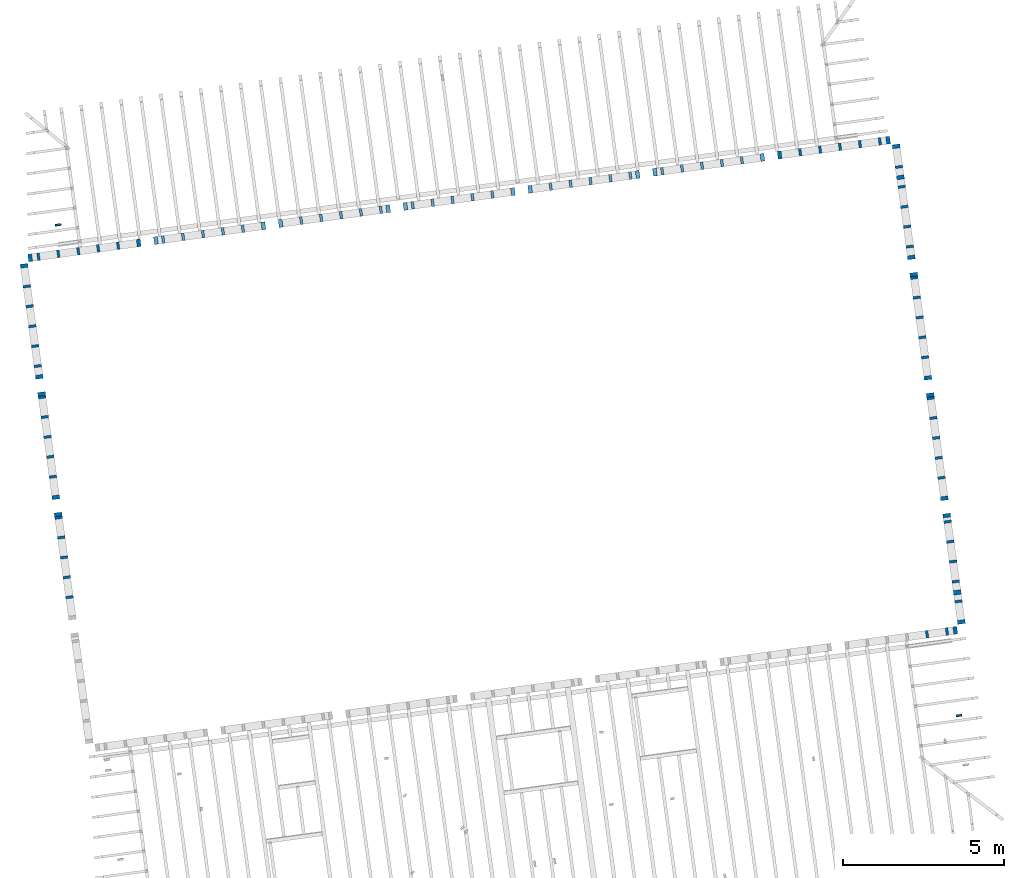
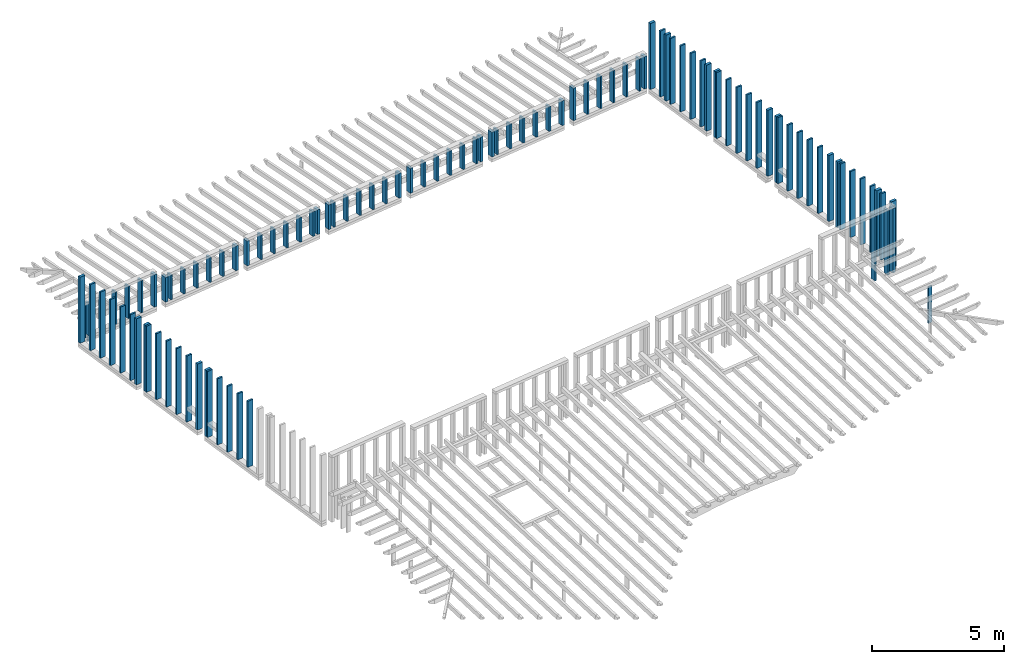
# One storey, part 2 of 16: 104 columns.
"""IFC2X3 building model written with IfcOpenShell, lengths in metres."""

from ifc_helpers import new_model, entity, si_unit, converted_unit, derived_unit, money_unit, direction, frame, origin_with_axes, origin_2d_with_axis, place, context, subcontext, project, spatial, rectangle, extrude, material, type_object, element, save


model = new_model("IFC2X3")

# Units and contexts
model_context = context("Model", 3, precision=1e-05, world=origin_with_axes(), true_north=direction((0.0, 1.0)))
body_context = subcontext(model_context, "Body", "Model", "MODEL_VIEW")
ifc_project = project(units=[si_unit("LENGTHUNIT", "METRE"), si_unit("AREAUNIT", "SQUARE_METRE"), si_unit("VOLUMEUNIT", "CUBIC_METRE"), converted_unit("PLANEANGLEUNIT", "DEGREE", entity("IfcPlaneAngleMeasure", 0.0174532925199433), si_unit("PLANEANGLEUNIT", "RADIAN"), dimensions=[0, 0, 0, 0, 0, 0, 0]), money_unit("EUR"), converted_unit("TIMEUNIT", "Year", entity("IfcTimeMeasure", 31557600.0), si_unit("TIMEUNIT", "SECOND"), dimensions=[0, 0, 1, 0, 0, 0, 0]), si_unit("MASSUNIT", "GRAM", prefix="KILO"), si_unit("THERMODYNAMICTEMPERATUREUNIT", "DEGREE_CELSIUS"), si_unit("LUMINOUSINTENSITYUNIT", "LUMEN"), si_unit("ENERGYUNIT", "JOULE", prefix="MEGA"), derived_unit("THERMALCONDUCTANCEUNIT", [(si_unit("POWERUNIT", "WATT"), 1), (si_unit("LENGTHUNIT", "METRE"), -1), (si_unit("THERMODYNAMICTEMPERATUREUNIT", "KELVIN"), -1)]), derived_unit("SPECIFICHEATCAPACITYUNIT", [(si_unit("ENERGYUNIT", "JOULE"), 1), (si_unit("MASSUNIT", "GRAM", prefix="KILO"), -1), (si_unit("THERMODYNAMICTEMPERATUREUNIT", "KELVIN"), -1)]), derived_unit("MASSDENSITYUNIT", [(si_unit("MASSUNIT", "GRAM", prefix="KILO"), 1), (si_unit("VOLUMEUNIT", "CUBIC_METRE"), -1)])], contexts=[model_context])

# Site, building, storey
site_placement = place(None, origin_with_axes())
site = spatial("IfcSite", under=ifc_project, at=site_placement, Name="Gelände", CompositionType="ELEMENT")
building_placement = place(site_placement, origin_with_axes())
building = spatial("IfcBuilding", under=site, at=building_placement, Name="Gebäude", CompositionType="ELEMENT")
storey_placement = place(building_placement, frame((0.0, 0.0, 3.0), z_axis=(0.0, 0.0, 1.0), x_axis=(1.0, 0.0, 0.0)))
storey = spatial("IfcBuildingStorey", under=building, at=storey_placement, Name="ZG", CompositionType="ELEMENT", Elevation=3.0)

# Columns
ifc_material = material(Name="Bauholz")
column_type_1 = type_object("IfcColumnType", Name="Bauholz 80 x 240", PredefinedType="NOTDEFINED")
for number, where, z_axis, x_axis in (
    (1, (113.330141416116, -144.586933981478, 0.2719999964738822), (0.0, 0.0, 1.0), (0.1357111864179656, -0.9907484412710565, 0.0)),
    (2, (113.2453219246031, -143.9677162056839, 0.2719999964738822), (0.0, 0.0, 1.0), (0.1357111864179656, -0.9907484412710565, 0.0)),
    (3, (113.4149609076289, -145.2061517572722, 0.2719999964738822), (0.0, 0.0, 1.0), (0.1357111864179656, -0.9907484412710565, 0.0)),
    (4, (113.058040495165, -142.6004834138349, 0.2719999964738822), (0.0, 0.0, 1.0), (0.1357111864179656, -0.9907484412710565, 0.0)),
    (5, (112.9732210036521, -141.9812656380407, 0.2719999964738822), (0.0, 0.0, 1.0), (0.1357111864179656, -0.9907484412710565, 0.0)),
    (6, (112.8035820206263, -140.7428300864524, 0.2719999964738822), (0.0, 0.0, 1.0), (0.1357111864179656, -0.9907484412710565, 0.0)),
    (7, (112.8884015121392, -141.3620478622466, 0.2719999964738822), (0.0, 0.0, 1.0), (0.1357111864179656, -0.9907484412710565, 0.0)),
    (8, (112.7194410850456, -140.1285660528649, 0.2719999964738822), (0.0, 0.0, 1.0), (0.1357111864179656, -0.9907484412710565, 0.0)),
):
    element("IfcColumn", number, at=place(storey_placement, frame(where, z_axis=z_axis, x_axis=x_axis)), inside=storey, type_object=column_type_1, material=ifc_material, Name="Stütze-018", context=body_context, shape_type="SweptSolid", body=[
        extrude(rectangle(XDim=0.08, YDim=0.24, at=origin_2d_with_axis()), origin_with_axes(), (0.0, 0.0, 1.0), 3.06),
    ])
column_1_placement = place(storey_placement, frame((85.09561245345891, -140.097137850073, 0.2719999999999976), z_axis=(0.0, 0.0, 1.0), x_axis=(0.1357111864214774, -0.9907484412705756, 0.0)))
element("IfcColumn", 9, at=column_1_placement, inside=storey, type_object=column_type_1, material=ifc_material, Name="Stütze-018", context=body_context, shape_type="SweptSolid", body=[
    extrude(rectangle(XDim=0.08, YDim=0.24, at=origin_2d_with_axis()), origin_with_axes(), (0.0, 0.0, 1.0), 3.059999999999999),
])
for number, where, z_axis, x_axis in (
    (10, (113.4997803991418, -145.8253695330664, 0.2719999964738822), (0.0, 0.0, 1.0), (0.1357111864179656, -0.9907484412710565, 0.0)),
    (11, (113.5845998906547, -146.4445873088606, 0.2719999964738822), (0.0, 0.0, 1.0), (0.1357111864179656, -0.9907484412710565, 0.0)),
):
    element("IfcColumn", number, at=place(storey_placement, frame(where, z_axis=z_axis, x_axis=x_axis)), inside=storey, type_object=column_type_1, material=ifc_material, Name="Stütze-018", context=body_context, shape_type="SweptSolid", body=[
        extrude(rectangle(XDim=0.08, YDim=0.24, at=origin_2d_with_axis()), origin_with_axes(), (0.0, 0.0, 1.0), 3.06),
    ])
for number, where, z_axis, x_axis in (
    (12, (112.6079077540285, -147.4660858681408, 0.2720003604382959), (0.0, 0.0, 1.0), (0.9907484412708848, 0.1357111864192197, 0.0)),
    (13, (113.2271255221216, -147.3812663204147, 0.2720003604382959), (0.0, 0.0, 1.0), (0.9907484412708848, 0.1357111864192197, 0.0)),
):
    element("IfcColumn", number, at=place(storey_placement, frame(where, z_axis=z_axis, x_axis=x_axis)), inside=storey, type_object=column_type_1, material=ifc_material, Name="Stütze-018", context=body_context, shape_type="SweptSolid", body=[
        extrude(rectangle(XDim=0.08, YDim=0.24, at=origin_2d_with_axis()), origin_with_axes(), (0.0, 0.0, 1.0), 2.98193316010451),
    ])
for number, where, z_axis, x_axis in (
    (14, (109.2821662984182, -132.3975184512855, 0.2719999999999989), (0.0, 0.0, 1.0), (0.9907484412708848, 0.1357111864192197, 0.0)),
    (15, (108.6629485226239, -132.4823379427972, 0.2719999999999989), (0.0, 0.0, 1.0), (0.9907484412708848, 0.1357111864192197, 0.0)),
    (16, (109.901384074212, -132.3126989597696, 0.2719999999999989), (0.0, 0.0, 1.0), (0.9907484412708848, 0.1357111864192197, 0.0)),
    (17, (111.1398196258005, -132.1430599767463, 0.2719999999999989), (0.0, 0.0, 1.0), (0.9907484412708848, 0.1357111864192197, 0.0)),
    (18, (110.5206018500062, -132.2278794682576, 0.2719999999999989), (0.0, 0.0, 1.0), (0.9907484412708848, 0.1357111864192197, 0.0)),
    (19, (86.84029732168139, -135.4715708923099, 0.2719999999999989), (0.0, 0.0, 1.0), (0.9907484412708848, 0.1357111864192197, 0.0)),
    (20, (85.60186177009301, -135.6412098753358, 0.2719999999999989), (0.0, 0.0, 1.0), (0.9907484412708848, 0.1357111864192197, 0.0)),
    (21, (84.98264399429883, -135.7260293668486, 0.2719999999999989), (0.0, 0.0, 1.0), (0.9907484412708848, 0.1357111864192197, 0.0)),
    (22, (87.45951509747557, -135.386751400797, 0.2719999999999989), (0.0, 0.0, 1.0), (0.9907484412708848, 0.1357111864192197, 0.0)),
    (23, (86.2210795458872, -135.5563903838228, 0.2719999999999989), (0.0, 0.0, 1.0), (0.9907484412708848, 0.1357111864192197, 0.0)),
):
    element("IfcColumn", number, at=place(storey_placement, frame(where, z_axis=z_axis, x_axis=x_axis)), inside=storey, type_object=column_type_1, material=ifc_material, Name="Stütze-018", context=body_context, shape_type="SweptSolid", body=[
        extrude(rectangle(XDim=0.08, YDim=0.24, at=origin_2d_with_axis()), origin_with_axes(), (0.0, 0.0, 1.0), 1.499550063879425),
    ])
for number, where, z_axis, x_axis in (
    (24, (105.6114415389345, -132.9003286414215, 0.2719999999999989), (0.0, 0.0, 1.0), (0.9907484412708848, 0.1357111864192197, 0.0)),
    (25, (106.2306593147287, -132.8155091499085, 0.2719999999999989), (0.0, 0.0, 1.0), (0.9907484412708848, 0.1357111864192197, 0.0)),
    (26, (104.9922237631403, -132.9851481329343, 0.2719999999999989), (0.0, 0.0, 1.0), (0.9907484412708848, 0.1357111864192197, 0.0)),
    (27, (104.3730059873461, -133.0699676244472, 0.2719999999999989), (0.0, 0.0, 1.0), (0.9907484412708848, 0.1357111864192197, 0.0)),
):
    element("IfcColumn", number, at=place(storey_placement, frame(where, z_axis=z_axis, x_axis=x_axis)), inside=storey, type_object=column_type_1, material=ifc_material, Name="Stütze-018", context=body_context, shape_type="SweptSolid", body=[
        extrude(rectangle(XDim=0.08, YDim=0.24, at=origin_2d_with_axis()), origin_with_axes(), (0.0, 0.0, 1.0), 1.144011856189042),
    ])
for number, where, z_axis, x_axis in (
    (28, (100.9068039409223, -133.5447626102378, 0.2719999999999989), (0.0, 0.0, 1.0), (0.9907484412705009, 0.1357111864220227, 0.0)),
    (29, (101.5260217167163, -133.4599431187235, 0.2719999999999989), (0.0, 0.0, 1.0), (0.9907484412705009, 0.1357111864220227, 0.0)),
    (30, (102.1452394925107, -133.375123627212, 0.2719999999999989), (0.0, 0.0, 1.0), (0.9907484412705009, 0.1357111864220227, 0.0)),
    (31, (102.7644572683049, -133.2903041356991, 0.2719999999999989), (0.0, 0.0, 1.0), (0.9907484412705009, 0.1357111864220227, 0.0)),
    (32, (103.383675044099, -133.2054846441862, 0.2719999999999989), (0.0, 0.0, 1.0), (0.9907484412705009, 0.1357111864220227, 0.0)),
):
    element("IfcColumn", number, at=place(storey_placement, frame(where, z_axis=z_axis, x_axis=x_axis)), inside=storey, type_object=column_type_1, material=ifc_material, Name="Stütze-018", context=body_context, shape_type="SweptSolid", body=[
        extrude(rectangle(XDim=0.08, YDim=0.24, at=origin_2d_with_axis()), frame((0.0, 0.0, 0.0), z_axis=(0.0, 0.0, -1.0), x_axis=(-1.0, 0.0, 0.0)), (0.0, 0.0, -1.0), 1.144011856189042),
    ])
for number, where, z_axis, x_axis in (
    (33, (99.09373215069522, -133.7931143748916, 0.2719999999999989), (0.0, 0.0, 1.0), (0.9907484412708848, 0.1357111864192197, 0.0)),
    (34, (106.8498770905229, -132.7306896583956, 0.2719999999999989), (0.0, 0.0, 1.0), (0.9907484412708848, 0.1357111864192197, 0.0)),
    (35, (98.47451437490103, -133.8779338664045, 0.2719999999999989), (0.0, 0.0, 1.0), (0.9907484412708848, 0.1357111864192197, 0.0)),
    (36, (97.85529659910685, -133.9627533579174, 0.2719999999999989), (0.0, 0.0, 1.0), (0.9907484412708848, 0.1357111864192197, 0.0)),
):
    element("IfcColumn", number, at=place(storey_placement, frame(where, z_axis=z_axis, x_axis=x_axis)), inside=storey, type_object=column_type_1, material=ifc_material, Name="Stütze-018", context=body_context, shape_type="SweptSolid", body=[
        extrude(rectangle(XDim=0.08, YDim=0.24, at=origin_2d_with_axis()), origin_with_axes(), (0.0, 0.0, 1.0), 1.144011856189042),
    ])
column_2_placement = place(storey_placement, frame((93.15065900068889, -134.6071873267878, 0.2719999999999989), z_axis=(0.0, 0.0, 1.0), x_axis=(0.9907484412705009, 0.1357111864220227, 0.0)))
element("IfcColumn", 37, at=column_2_placement, inside=storey, type_object=column_type_1, material=ifc_material, Name="Stütze-018", context=body_context, shape_type="SweptSolid", body=[
    extrude(rectangle(XDim=0.08, YDim=0.24, at=origin_2d_with_axis()), frame((0.0, 0.0, 0.0), z_axis=(0.0, 0.0, -1.0), x_axis=(-1.0, 0.0, 0.0)), (0.0, 0.0, -1.0), 1.144011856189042),
])
column_3_placement = place(storey_placement, frame((97.23607882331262, -134.0475728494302, 0.2719999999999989), z_axis=(0.0, 0.0, 1.0), x_axis=(0.9907484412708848, 0.1357111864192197, 0.0)))
element("IfcColumn", 38, at=column_3_placement, inside=storey, type_object=column_type_1, material=ifc_material, Name="Stütze-018", context=body_context, shape_type="SweptSolid", body=[
    extrude(rectangle(XDim=0.08, YDim=0.24, at=origin_2d_with_axis()), origin_with_axes(), (0.0, 0.0, 1.0), 1.144011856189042),
])
for number, where, z_axis, x_axis in (
    (39, (93.76987677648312, -134.522367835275, 0.2719999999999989), (0.0, 0.0, 1.0), (0.9907484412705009, 0.1357111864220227, 0.0)),
    (40, (94.38909455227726, -134.437548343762, 0.2719999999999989), (0.0, 0.0, 1.0), (0.9907484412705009, 0.1357111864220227, 0.0)),
    (41, (95.00831232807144, -134.3527288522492, 0.2719999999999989), (0.0, 0.0, 1.0), (0.9907484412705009, 0.1357111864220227, 0.0)),
    (42, (95.62753010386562, -134.2679093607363, 0.2719999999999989), (0.0, 0.0, 1.0), (0.9907484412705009, 0.1357111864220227, 0.0)),
):
    element("IfcColumn", number, at=place(storey_placement, frame(where, z_axis=z_axis, x_axis=x_axis)), inside=storey, type_object=column_type_1, material=ifc_material, Name="Stütze-018", context=body_context, shape_type="SweptSolid", body=[
        extrude(rectangle(XDim=0.08, YDim=0.24, at=origin_2d_with_axis()), frame((0.0, 0.0, 0.0), z_axis=(0.0, 0.0, -1.0), x_axis=(-1.0, 0.0, 0.0)), (0.0, 0.0, -1.0), 1.144011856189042),
    ])
for number, where, z_axis, x_axis in (
    (43, (91.33758721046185, -134.8555390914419, 0.2719999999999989), (0.0, 0.0, 1.0), (0.9907484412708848, 0.1357111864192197, 0.0)),
    (44, (90.71836943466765, -134.9403585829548, 0.2719999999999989), (0.0, 0.0, 1.0), (0.9907484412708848, 0.1357111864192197, 0.0)),
    (45, (96.61686104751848, -134.1323923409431, 0.2719999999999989), (0.0, 0.0, 1.0), (0.9907484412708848, 0.1357111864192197, 0.0)),
    (46, (90.09915165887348, -135.0251780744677, 0.2719999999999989), (0.0, 0.0, 1.0), (0.9907484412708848, 0.1357111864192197, 0.0)),
    (47, (89.47993388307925, -135.1099975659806, 0.2719999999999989), (0.0, 0.0, 1.0), (0.9907484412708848, 0.1357111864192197, 0.0)),
):
    element("IfcColumn", number, at=place(storey_placement, frame(where, z_axis=z_axis, x_axis=x_axis)), inside=storey, type_object=column_type_1, material=ifc_material, Name="Stütze-018", context=body_context, shape_type="SweptSolid", body=[
        extrude(rectangle(XDim=0.08, YDim=0.24, at=origin_2d_with_axis()), origin_with_axes(), (0.0, 0.0, 1.0), 1.144011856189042),
    ])
for number, where, z_axis, x_axis in (
    (48, (84.62347323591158, -136.6503240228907, 0.2719999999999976), (0.0, 0.0, 1.0), (-0.1357111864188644, 0.9907484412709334, 0.0)),
    (49, (85.17975338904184, -140.7114018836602, 0.2719999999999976), (0.0, 0.0, 1.0), (0.1357111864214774, -0.9907484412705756, 0.0)),
    (50, (85.26457288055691, -141.3306196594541, 0.2719999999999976), (0.0, 0.0, 1.0), (0.1357111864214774, -0.9907484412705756, 0.0)),
    (51, (85.34939237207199, -141.949837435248, 0.2719999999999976), (0.0, 0.0, 1.0), (0.1357111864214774, -0.9907484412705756, 0.0)),
):
    element("IfcColumn", number, at=place(storey_placement, frame(where, z_axis=z_axis, x_axis=x_axis)), inside=storey, type_object=column_type_1, material=ifc_material, Name="Stütze-018", context=body_context, shape_type="SweptSolid", body=[
        extrude(rectangle(XDim=0.08, YDim=0.24, at=origin_2d_with_axis()), origin_with_axes(), (0.0, 0.0, 1.0), 3.059999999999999),
    ])
column_4_placement = place(storey_placement, frame((88.86071610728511, -135.1948170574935, 0.2719999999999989), z_axis=(0.0, 0.0, 1.0), x_axis=(0.9907484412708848, 0.1357111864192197, 0.0)))
element("IfcColumn", 52, at=column_4_placement, inside=storey, type_object=column_type_1, material=ifc_material, Name="Stütze-018", context=body_context, shape_type="SweptSolid", body=[
    extrude(rectangle(XDim=0.08, YDim=0.24, at=origin_2d_with_axis()), origin_with_axes(), (0.0, 0.0, 1.0), 1.144011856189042),
])
for number, where, z_axis, x_axis in (
    (53, (84.70829272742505, -137.2695417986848, 0.2719999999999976), (0.0, 0.0, 1.0), (-0.1357111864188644, 0.9907484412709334, 0.0)),
    (54, (85.43421186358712, -142.5690552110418, 0.2719999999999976), (0.0, 0.0, 1.0), (0.1357111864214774, -0.9907484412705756, 0.0)),
    (55, (84.96275120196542, -139.1271951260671, 0.2719999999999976), (0.0, 0.0, 1.0), (-0.1357111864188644, 0.9907484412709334, 0.0)),
    (56, (84.87793171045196, -138.507977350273, 0.2719999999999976), (0.0, 0.0, 1.0), (-0.1357111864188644, 0.9907484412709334, 0.0)),
    (57, (84.7931122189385, -137.8887595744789, 0.2719999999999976), (0.0, 0.0, 1.0), (-0.1357111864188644, 0.9907484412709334, 0.0)),
    (58, (85.60860073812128, -143.8421669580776, 0.2719999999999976), (0.0, 0.0, 1.0), (0.1357111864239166, -0.9907484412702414, 0.0)),
    (59, (85.69274167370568, -144.4564309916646, 0.2719999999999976), (0.0, 0.0, 1.0), (0.1357111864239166, -0.9907484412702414, 0.0)),
    (60, (85.77756116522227, -145.0756487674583, 0.2719999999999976), (0.0, 0.0, 1.0), (0.1357111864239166, -0.9907484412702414, 0.0)),
    (61, (85.8623806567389, -145.6948665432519, 0.2719999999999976), (0.0, 0.0, 1.0), (0.1357111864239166, -0.9907484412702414, 0.0)),
    (62, (85.94720014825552, -146.3140843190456, 0.2719999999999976), (0.0, 0.0, 1.0), (0.1357111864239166, -0.9907484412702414, 0.0)),
):
    element("IfcColumn", number, at=place(storey_placement, frame(where, z_axis=z_axis, x_axis=x_axis)), inside=storey, type_object=column_type_1, material=ifc_material, Name="Stütze-018", context=body_context, shape_type="SweptSolid", body=[
        extrude(rectangle(XDim=0.08, YDim=0.24, at=origin_2d_with_axis()), origin_with_axes(), (0.0, 0.0, 1.0), 3.059999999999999),
    ])
for number, where, z_axis, x_axis in (
    (63, (112.2064528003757, -136.3835369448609, 0.2719999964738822), (0.0, 0.0, 1.0), (0.1357111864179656, -0.9907484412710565, 0.0)),
    (64, (112.2905937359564, -136.9978009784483, 0.2719999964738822), (0.0, 0.0, 1.0), (0.1357111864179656, -0.9907484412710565, 0.0)),
    (65, (112.5450522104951, -138.8554543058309, 0.2719999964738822), (0.0, 0.0, 1.0), (0.1357111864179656, -0.9907484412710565, 0.0)),
    (66, (112.3754132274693, -137.6170187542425, 0.2719999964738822), (0.0, 0.0, 1.0), (0.1357111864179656, -0.9907484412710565, 0.0)),
    (67, (112.4602327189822, -138.2362365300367, 0.2719999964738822), (0.0, 0.0, 1.0), (0.1357111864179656, -0.9907484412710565, 0.0)),
    (68, (112.0735915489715, -135.4135942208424, 0.2719999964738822), (0.0, 0.0, 1.0), (-0.1357111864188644, 0.9907484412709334, 0.0)),
    (69, (111.9039525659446, -134.1751586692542, 0.2719999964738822), (0.0, 0.0, 1.0), (-0.1357111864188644, 0.9907484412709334, 0.0)),
    (70, (111.8191330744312, -133.5559408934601, 0.2719999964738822), (0.0, 0.0, 1.0), (-0.1357111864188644, 0.9907484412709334, 0.0)),
    (71, (111.7343135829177, -132.936723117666, 0.2719999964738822), (0.0, 0.0, 1.0), (-0.1357111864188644, 0.9907484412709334, 0.0)),
    (72, (111.9887720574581, -134.7943764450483, 0.2719999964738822), (0.0, 0.0, 1.0), (-0.1357111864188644, 0.9907484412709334, 0.0)),
):
    element("IfcColumn", number, at=place(storey_placement, frame(where, z_axis=z_axis, x_axis=x_axis)), inside=storey, type_object=column_type_1, material=ifc_material, Name="Stütze-018", context=body_context, shape_type="SweptSolid", body=[
        extrude(rectangle(XDim=0.08, YDim=0.24, at=origin_2d_with_axis()), origin_with_axes(), (0.0, 0.0, 1.0), 3.06),
    ])
column_type_2 = type_object("IfcColumnType", Name="Bauholz 60 x 180", PredefinedType="NOTDEFINED")
column_5_placement = place(storey_placement, frame((113.6017613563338, -149.9925827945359, -0.5399999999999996), z_axis=(0.0, 0.0, 1.0), x_axis=(-0.1357111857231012, 0.9907484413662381, 0.0)))
element("IfcColumn", 73, at=column_5_placement, inside=storey, type_object=column_type_2, material=ifc_material, Name="Stütze-018", context=body_context, shape_type="SweptSolid", body=[
    extrude(rectangle(XDim=0.06, YDim=0.18, at=origin_2d_with_axis()), frame((0.0, 0.0, 0.0), z_axis=(0.0, 0.0, -1.0), x_axis=(-1.0, 0.0, 0.0)), (0.0, 0.0, -1.0), 1.690631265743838),
])
column_6_placement = place(storey_placement, frame((85.5953556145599, -134.7387436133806, -0.8050000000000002), z_axis=(0.0, 0.0, 1.0), x_axis=(0.1357111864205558, -0.9907484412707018, 0.0)))
element("IfcColumn", 74, at=column_6_placement, inside=storey, type_object=column_type_2, material=ifc_material, Name="Stütze-018", context=body_context, shape_type="SweptSolid", body=[
    extrude(rectangle(XDim=0.06, YDim=0.18, at=origin_2d_with_axis()), origin_with_axes(), (0.0, 0.0, 1.0), 1.472846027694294),
])
column_type_3 = type_object("IfcColumnType", Name="Bauholz 120 x 240", PredefinedType="NOTDEFINED")
for number, where, z_axis, x_axis in (
    (75, (111.646779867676, -132.2976903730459, 0.2719999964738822), (0.0, 0.0, 1.0), (-0.1357111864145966, 0.9907484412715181, 0.0)),
    (76, (112.7058699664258, -140.0294912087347, 0.2719999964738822), (0.0, 0.0, 1.0), (0.1357111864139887, -0.9907484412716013, 0.0)),
    (77, (113.1455742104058, -143.2395161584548, 0.2719999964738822), (0.0, 0.0, 1.0), (0.1357111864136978, -0.9907484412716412, 0.0)),
):
    element("IfcColumn", number, at=place(storey_placement, frame(where, z_axis=z_axis, x_axis=x_axis)), inside=storey, type_object=column_type_3, material=ifc_material, Name="Stütze-018", context=body_context, shape_type="SweptSolid", body=[
        extrude(rectangle(XDim=0.12, YDim=0.24, at=origin_2d_with_axis()), origin_with_axes(), (0.0, 0.0, 1.0), 3.06),
    ])
column_7_placement = place(storey_placement, frame((113.4840111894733, -147.3460785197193, 0.2720003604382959), z_axis=(0.0, 0.0, 1.0), x_axis=(0.9907484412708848, 0.1357111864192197, 0.0)))
element("IfcColumn", 78, at=column_7_placement, inside=storey, type_object=column_type_3, material=ifc_material, Name="Stütze-018", context=body_context, shape_type="SweptSolid", body=[
    extrude(rectangle(XDim=0.120001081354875, YDim=0.24, at=origin_2d_with_axis()), origin_with_axes(), (0.0, 0.0, 1.0), 2.98193316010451),
])
column_8_placement = place(storey_placement, frame((108.0239156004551, -132.569871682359, 0.2719999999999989), z_axis=(0.0, 0.0, 1.0), x_axis=(0.9907484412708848, 0.1357111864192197, 0.0)))
element("IfcColumn", 79, at=column_8_placement, inside=storey, type_object=column_type_3, material=ifc_material, Name="Stütze-018", context=body_context, shape_type="SweptSolid", body=[
    extrude(rectangle(XDim=0.1200010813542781, YDim=0.24, at=origin_2d_with_axis()), origin_with_axes(), (0.0, 0.0, 1.0), 1.499550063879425),
])
column_9_placement = place(storey_placement, frame((111.3967052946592, -132.1078721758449, 0.2719999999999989), z_axis=(0.0, 0.0, 1.0), x_axis=(0.9907484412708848, 0.1357111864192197, 0.0)))
element("IfcColumn", 80, at=column_9_placement, inside=storey, type_object=column_type_3, material=ifc_material, Name="Stütze-018", context=body_context, shape_type="SweptSolid", body=[
    extrude(rectangle(XDim=0.1200010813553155, YDim=0.24, at=origin_2d_with_axis()), origin_with_axes(), (0.0, 0.0, 1.0), 1.499550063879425),
])
column_10_placement = place(storey_placement, frame((88.09854819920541, -135.2992176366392, 0.2719999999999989), z_axis=(0.0, 0.0, 1.0), x_axis=(0.9907484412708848, 0.1357111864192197, 0.0)))
element("IfcColumn", 81, at=column_10_placement, inside=storey, type_object=column_type_3, material=ifc_material, Name="Stütze-018", context=body_context, shape_type="SweptSolid", body=[
    extrude(rectangle(XDim=0.1200007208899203, YDim=0.24, at=origin_2d_with_axis()), origin_with_axes(), (0.0, 0.0, 1.0), 1.499550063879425),
])
column_11_placement = place(storey_placement, frame((84.72575832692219, -135.7612171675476, 0.2719999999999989), z_axis=(0.0, 0.0, 1.0), x_axis=(0.9907484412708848, 0.1357111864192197, 0.0)))
element("IfcColumn", 82, at=column_11_placement, inside=storey, type_object=column_type_3, material=ifc_material, Name="Stütze-018", context=body_context, shape_type="SweptSolid", body=[
    extrude(rectangle(XDim=0.1200010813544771, YDim=0.24, at=origin_2d_with_axis()), origin_with_axes(), (0.0, 0.0, 1.0), 1.499550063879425),
])
column_12_placement = place(storey_placement, frame((107.4889103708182, -132.6431558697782, 0.2719999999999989), z_axis=(0.0, 0.0, 1.0), x_axis=(0.9907484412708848, 0.1357111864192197, 0.0)))
element("IfcColumn", 83, at=column_12_placement, inside=storey, type_object=column_type_3, material=ifc_material, Name="Stütze-018", context=body_context, shape_type="SweptSolid", body=[
    extrude(rectangle(XDim=0.1200010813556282, YDim=0.24, at=origin_2d_with_axis()), origin_with_axes(), (0.0, 0.0, 1.0), 1.144011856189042),
])
column_13_placement = place(storey_placement, frame((104.1458431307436, -133.1010840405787, 0.2719999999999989), z_axis=(0.0, 0.0, 1.0), x_axis=(0.9907484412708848, 0.1357111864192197, 0.0)))
element("IfcColumn", 84, at=column_13_placement, inside=storey, type_object=column_type_3, material=ifc_material, Name="Stütze-018", context=body_context, shape_type="SweptSolid", body=[
    extrude(rectangle(XDim=0.1200010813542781, YDim=0.24, at=origin_2d_with_axis()), origin_with_axes(), (0.0, 0.0, 1.0), 1.144011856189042),
])
column_14_placement = place(storey_placement, frame((100.2677706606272, -133.6322963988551, 0.2719999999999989), z_axis=(0.0, 0.0, 1.0), x_axis=(0.9907484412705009, 0.1357111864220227, 0.0)))
element("IfcColumn", 85, at=column_14_placement, inside=storey, type_object=column_type_3, material=ifc_material, Name="Stütze-018", context=body_context, shape_type="SweptSolid", body=[
    extrude(rectangle(XDim=0.1200010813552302, YDim=0.24, at=origin_2d_with_axis()), frame((0.0, 0.0, 0.0), z_axis=(0.0, 0.0, -1.0), x_axis=(-1.0, 0.0, 0.0)), (0.0, 0.0, -1.0), 1.144011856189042),
])
column_15_placement = place(storey_placement, frame((99.73276543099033, -133.7055805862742, 0.2719999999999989), z_axis=(0.0, 0.0, 1.0), x_axis=(0.9907484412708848, 0.1357111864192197, 0.0)))
element("IfcColumn", 86, at=column_15_placement, inside=storey, type_object=column_type_3, material=ifc_material, Name="Stütze-018", context=body_context, shape_type="SweptSolid", body=[
    extrude(rectangle(XDim=0.1200010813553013, YDim=0.24, at=origin_2d_with_axis()), origin_with_axes(), (0.0, 0.0, 1.0), 1.144011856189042),
])
column_16_placement = place(storey_placement, frame((96.38969819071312, -134.1635087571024, 0.2719999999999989), z_axis=(0.0, 0.0, 1.0), x_axis=(0.9907484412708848, 0.1357111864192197, 0.0)))
element("IfcColumn", 87, at=column_16_placement, inside=storey, type_object=column_type_3, material=ifc_material, Name="Stütze-018", context=body_context, shape_type="SweptSolid", body=[
    extrude(rectangle(XDim=0.120001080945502, YDim=0.24, at=origin_2d_with_axis()), origin_with_axes(), (0.0, 0.0, 1.0), 1.144011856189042),
])
column_17_placement = place(storey_placement, frame((95.85469296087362, -134.2367929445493, 0.2719999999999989), z_axis=(0.0, 0.0, 1.0), x_axis=(0.9907484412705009, 0.1357111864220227, 0.0)))
element("IfcColumn", 88, at=column_17_placement, inside=storey, type_object=column_type_3, material=ifc_material, Name="Stütze-018", context=body_context, shape_type="SweptSolid", body=[
    extrude(rectangle(XDim=0.1200010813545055, YDim=0.24, at=origin_2d_with_axis()), frame((0.0, 0.0, 0.0), z_axis=(0.0, 0.0, -1.0), x_axis=(-1.0, 0.0, 0.0)), (0.0, 0.0, -1.0), 1.144011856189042),
])
column_18_placement = place(storey_placement, frame((91.97662049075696, -134.7680053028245, 0.2719999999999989), z_axis=(0.0, 0.0, 1.0), x_axis=(0.9907484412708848, 0.1357111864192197, 0.0)))
element("IfcColumn", 89, at=column_18_placement, inside=storey, type_object=column_type_3, material=ifc_material, Name="Stütze-018", context=body_context, shape_type="SweptSolid", body=[
    extrude(rectangle(XDim=0.1200010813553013, YDim=0.24, at=origin_2d_with_axis()), origin_with_axes(), (0.0, 0.0, 1.0), 1.144011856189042),
])
column_19_placement = place(storey_placement, frame((92.51162572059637, -134.6947211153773, 0.2719999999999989), z_axis=(0.0, 0.0, 1.0), x_axis=(0.9907484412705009, 0.1357111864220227, 0.0)))
element("IfcColumn", 90, at=column_19_placement, inside=storey, type_object=column_type_3, material=ifc_material, Name="Stütze-018", context=body_context, shape_type="SweptSolid", body=[
    extrude(rectangle(XDim=0.1200010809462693, YDim=0.24, at=origin_2d_with_axis()), frame((0.0, 0.0, 0.0), z_axis=(0.0, 0.0, -1.0), x_axis=(-1.0, 0.0, 0.0)), (0.0, 0.0, -1.0), 1.144011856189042),
])
column_20_placement = place(storey_placement, frame((88.63355325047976, -135.2259334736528, 0.2719999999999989), z_axis=(0.0, 0.0, 1.0), x_axis=(0.9907484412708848, 0.1357111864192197, 0.0)))
element("IfcColumn", 91, at=column_20_placement, inside=storey, type_object=column_type_3, material=ifc_material, Name="Stütze-018", context=body_context, shape_type="SweptSolid", body=[
    extrude(rectangle(XDim=0.1200010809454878, YDim=0.24, at=origin_2d_with_axis()), origin_with_axes(), (0.0, 0.0, 1.0), 1.144011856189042),
])
for number, where, z_axis, x_axis in (
    (92, (84.53593952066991, -136.0112912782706, 0.2719999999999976), (0.0, 0.0, 1.0), (-0.1357111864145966, 0.9907484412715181, 0.0)),
    (93, (85.00875729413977, -139.4630588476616, 0.2719999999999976), (0.0, 0.0, 1.0), (-0.1357111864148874, 0.9907484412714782, 0.0)),
    (94, (85.52174557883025, -143.2080879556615, 0.2719999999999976), (0.0, 0.0, 1.0), (0.1357111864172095, -0.9907484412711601, 0.0)),
    (95, (85.08204133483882, -139.9980630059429, 0.2719999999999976), (0.0, 0.0, 1.0), (0.1357111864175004, -0.9907484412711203, 0.0)),
):
    element("IfcColumn", number, at=place(storey_placement, frame(where, z_axis=z_axis, x_axis=x_axis)), inside=storey, type_object=column_type_3, material=ifc_material, Name="Stütze-018", context=body_context, shape_type="SweptSolid", body=[
        extrude(rectangle(XDim=0.12, YDim=0.24, at=origin_2d_with_axis()), origin_with_axes(), (0.0, 0.0, 1.0), 3.059999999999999),
    ])
column_21_placement = place(storey_placement, frame((103.6108379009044, -133.174368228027, 0.2719999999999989), z_axis=(0.0, 0.0, 1.0), x_axis=(0.9907484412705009, 0.1357111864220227, 0.0)))
element("IfcColumn", 96, at=column_21_placement, inside=storey, type_object=column_type_3, material=ifc_material, Name="Stütze-018", context=body_context, shape_type="SweptSolid", body=[
    extrude(rectangle(XDim=0.1200010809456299, YDim=0.24, at=origin_2d_with_axis()), frame((0.0, 0.0, 0.0), z_axis=(0.0, 0.0, -1.0), x_axis=(-1.0, 0.0, 0.0)), (0.0, 0.0, -1.0), 1.144011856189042),
])
column_22_placement = place(storey_placement, frame((111.7789625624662, -133.2626793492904, 0.2719999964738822), z_axis=(0.0, 0.0, 1.0), x_axis=(-0.1357111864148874, 0.9907484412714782, 0.0)))
element("IfcColumn", 97, at=column_22_placement, inside=storey, type_object=column_type_3, material=ifc_material, Name="Stütze-018", context=body_context, shape_type="SweptSolid", body=[
    extrude(rectangle(XDim=0.12, YDim=0.24, at=origin_2d_with_axis()), origin_with_axes(), (0.0, 0.0, 1.0), 3.06),
])
column_23_placement = place(storey_placement, frame((85.59502961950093, -143.7430921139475, 0.2719999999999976), z_axis=(0.0, 0.0, 1.0), x_axis=(0.1357111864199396, -0.9907484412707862, 0.0)))
element("IfcColumn", 98, at=column_23_placement, inside=storey, type_object=column_type_3, material=ifc_material, Name="Stütze-018", context=body_context, shape_type="SweptSolid", body=[
    extrude(rectangle(XDim=0.12, YDim=0.24, at=origin_2d_with_axis()), origin_with_axes(), (0.0, 0.0, 1.0), 3.059999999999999),
])
for number, where, z_axis, x_axis in (
    (99, (113.6721336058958, -147.0836200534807, 0.2719999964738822), (0.0, 0.0, 1.0), (0.1357111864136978, -0.9907484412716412, 0.0)),
    (100, (112.1928816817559, -136.2844621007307, 0.2719999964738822), (0.0, 0.0, 1.0), (0.1357111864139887, -0.9907484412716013, 0.0)),
    (101, (113.2188582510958, -143.7745203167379, 0.2719999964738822), (0.0, 0.0, 1.0), (0.1357111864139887, -0.9907484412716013, 0.0)),
    (102, (112.632585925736, -139.4944870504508, 0.2719999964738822), (0.0, 0.0, 1.0), (0.1357111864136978, -0.9907484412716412, 0.0)),
    (103, (112.1195976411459, -135.7494579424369, 0.2719999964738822), (0.0, 0.0, 1.0), (-0.1357111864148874, 0.9907484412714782, 0.0)),
):
    element("IfcColumn", number, at=place(storey_placement, frame(where, z_axis=z_axis, x_axis=x_axis)), inside=storey, type_object=column_type_3, material=ifc_material, Name="Stütze-018", context=body_context, shape_type="SweptSolid", body=[
        extrude(rectangle(XDim=0.12, YDim=0.24, at=origin_2d_with_axis()), origin_with_axes(), (0.0, 0.0, 1.0), 3.06),
    ])
column_type_4 = type_object("IfcColumnType", Name="Bauholz 140 x 240", PredefinedType="NOTDEFINED")
column_24_placement = place(storey_placement, frame((113.5463276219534, -146.1651837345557, 0.2719999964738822), z_axis=(0.0, 0.0, 1.0), x_axis=(0.1357111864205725, -0.9907484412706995, 0.0)))
element("IfcColumn", 104, at=column_24_placement, inside=storey, type_object=column_type_4, material=ifc_material, Name="Stütze-018", context=body_context, shape_type="SweptSolid", body=[
    extrude(rectangle(XDim=0.1400000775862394, YDim=0.24, at=origin_2d_with_axis()), origin_with_axes(), (0.0, 0.0, 1.0), 3.06),
])

save(model, "model.ifc")
